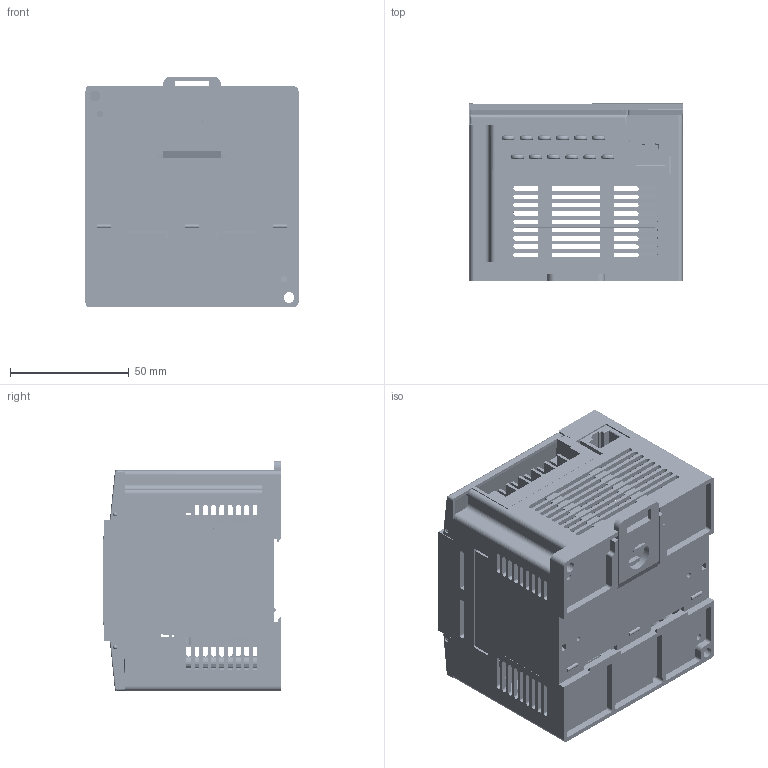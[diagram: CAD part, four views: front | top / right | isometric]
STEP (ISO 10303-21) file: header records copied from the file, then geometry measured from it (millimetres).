
FILE_DESCRIPTION (( 'STEP AP214' ), '1' );
FILE_NAME ('PLC-FB0808P.STEP', '2023-11-09T23:33:01', ( '' ), ( '' ), 'SwSTEP 2.0', 'SolidWorks 2019', '' );
FILE_SCHEMA (( 'AUTOMOTIVE_DESIGN' ));
Length unit declared in the file: inch
Products named in the file (14): Din rail ______.STEP; Bolt___________M3_6_BNT21039.STEP; BP16_Upper Case_Z3.STEP; ______ cover_16_____.STEP; RT7.STEP; Assy_Block 16_A.STEP; plate_SB32MDT_Z1.STEP; PLC-FB0808P; HP-762 T2A-12P-1.STEP; HP-762 T2A_12p.STEP; Assy_BP16_IO.STEP; HP-762 T2A-12P.STEP; BP16_Bottom Case_Z2.STEP; EXP cover_____.STEP
Assembly tree (38 placements, depth 5):
  PLC-FB0808P
    Assy_Block 16_A.STEP
      Assy_BP16_IO.STEP
        HP-762 T2A-12P.STEP
          HP-762 T2A_12p.STEP
          Bolt___________M3_6_BNT21039.STEP  x12
        HP-762 T2A-12P-1.STEP
          HP-762 T2A_12p.STEP
          Bolt___________M3_6_BNT21039.STEP  x12
        RT7.STEP
      BP16_Bottom Case_Z2.STEP
      BP16_Upper Case_Z3.STEP
      EXP cover_____.STEP
      ______ cover_16_____.STEP  x2
      plate_SB32MDT_Z1.STEP
      Din rail ______.STEP
Bounding box: 89.8 x 75.16 x 97.24 mm (x, y, z)
Volume: 112779 mm3; surface area: 127755.9 mm2
Topology: 40 solids, 42 shells, 3087 faces, 8691 edges, 5693 vertices
Faces by surface type: plane 1656, cylinder 1165, torus 103, bspline 81, sphere 70, cone 12
Entity records: 60059 total; most frequent: CARTESIAN_POINT 13779, ORIENTED_EDGE 9870, DIRECTION 8943, EDGE_CURVE 4935, LINE 3817, VECTOR 3817, VERTEX_POINT 3263, AXIS2_PLACEMENT_3D 2563
